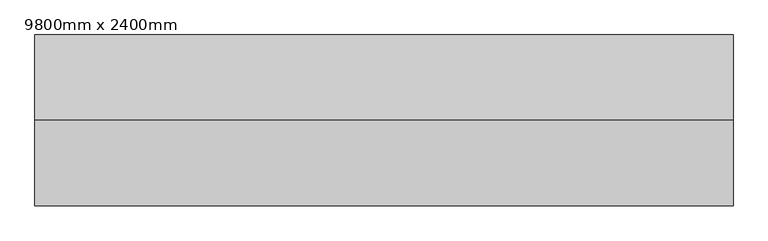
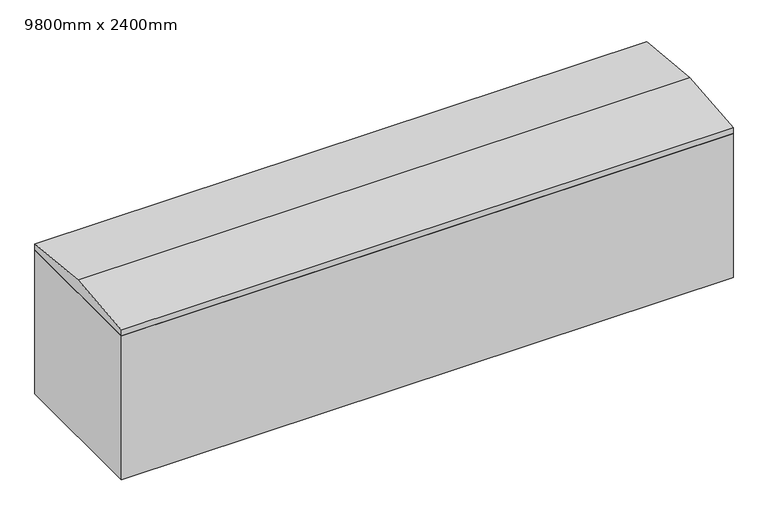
"""IFC4 building model written with IfcOpenShell, lengths in millimetres: geographic element geometry, Unité mobile de chantier : 9800mm x 2400mm."""

from ifc_helpers import new_model, si_unit, frame, origin, place, context, project, spatial, polyline, outline, extrude, source, transform, mapped, element, save


def geographic_element_9800mm_x_2400mm_0ce7ae14(model_context):
    return source(origin(), model_context, "Body", "SweptSolid", [
        extrude(outline(polyline([(4900.0, 1200.0), (4900.0, -1200.0), (-4900.0, -1200.0), (-4900.0, 1200.0), (4900.0, 1200.0)])), frame((0.0, 0.0, 762.0), z_axis=(0.0, 0.0, 1.0), x_axis=(1.0, 0.0, 0.0)), (0.0, 0.0, 1.0), 2438.4),
        extrude(outline(polyline([(1200.0, 3302.0), (1200.0, 3200.4), (-1200.0, 3200.4), (-1200.0, 3302.0), (0.0, 3416.0590808), (1200.0, 3302.0)])), frame((-4900.0, 0.0, 0.0), z_axis=(1.0, 0.0, 0.0), x_axis=(0.0, 1.0, 0.0)), (0.0, 0.0, 1.0), 9800.0),
        extrude(outline(polyline([(4747.6, -1047.6), (-4747.6, -1047.6), (-4747.6, 1047.6), (4747.6, 1047.6), (4747.6, -1047.6)])), frame((0.0, 0.0, 640.3643069), z_axis=(0.0, 0.0, 1.0), x_axis=(1.0, 0.0, 0.0)), (0.0, 0.0, 1.0), 121.6356931),
    ])


if __name__ == "__main__":
    model = new_model("IFC4")
    model_context = context("Model", 3, world=origin())
    ifc_project = project(units=[si_unit("LENGTHUNIT", "METRE", prefix="MILLI")], contexts=[model_context])
    site = spatial("IfcSite", under=ifc_project)
    building = spatial("IfcBuilding", under=site)
    placement = place(None, origin())
    geographic_element_9800mm_x_2400mm_shape = geographic_element_9800mm_x_2400mm_0ce7ae14(model_context)
    element("IfcGeographicElement", 1, ObjectType="Unité mobile de chantier : 9800mm x 2400mm", at=placement, inside=building, context=model_context, shape_type="MappedRepresentation", body=[
        mapped(geographic_element_9800mm_x_2400mm_shape, transform((0.0, 0.0, 0.0), x_axis=(1.0, 0.0, 0.0), y_axis=(0.0, 1.0, 0.0), z_axis=(0.0, 0.0, 1.0))),
    ])
    save(model, "model.ifc")
